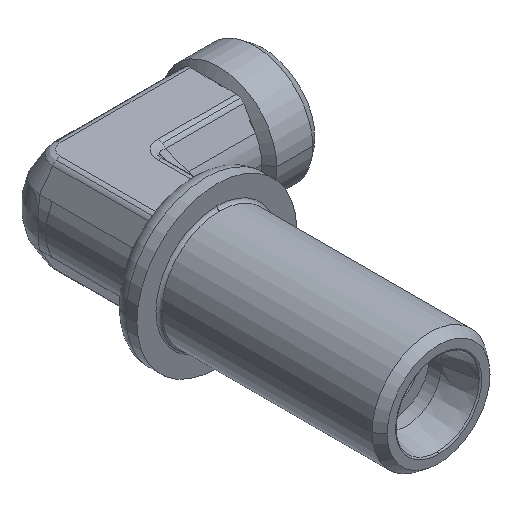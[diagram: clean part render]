
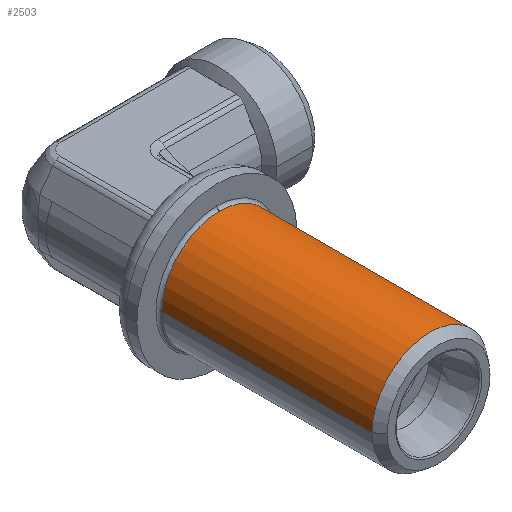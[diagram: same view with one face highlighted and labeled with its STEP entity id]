
A CAD part, isometric view. The second image highlights one B-rep face of the part: STEP entity #2503.
In plain terms, the highlighted cylindrical face has radius 9.925 mm (diameter 19.85 mm), a partial arc.
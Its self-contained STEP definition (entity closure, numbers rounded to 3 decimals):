
#1095=CARTESIAN_POINT('',(17.,0.,-9.925));
#1096=VERTEX_POINT('',#1095);
#1104=CARTESIAN_POINT('',(17.,-9.925,0.));
#1105=VERTEX_POINT('',#1104);
#1106=CARTESIAN_POINT('',(17.,0.,0.));
#1107=DIRECTION('',(-1.0,0.0,0.0));
#1108=DIRECTION('',(0.0,0.0,1.0));
#1109=AXIS2_PLACEMENT_3D('',#1106,#1107,#1108);
#1110=CIRCLE('',#1109,9.925);
#1111=EDGE_CURVE('',#1096,#1105,#1110,.T.);
#1137=CARTESIAN_POINT('',(53.007,0.,9.925));
#1138=VERTEX_POINT('',#1137);
#1139=CARTESIAN_POINT('',(17.,0.,9.925));
#1140=VERTEX_POINT('',#1139);
#1141=CARTESIAN_POINT('',(53.007,0.,9.925));
#1142=DIRECTION('',(-1.0,0.0,0.0));
#1143=VECTOR('',#1142,36.007);
#1144=LINE('',#1141,#1143);
#1145=EDGE_CURVE('',#1138,#1140,#1144,.T.);
#1147=CARTESIAN_POINT('',(53.007,0.,-9.925));
#1148=VERTEX_POINT('',#1147);
#1156=CARTESIAN_POINT('',(17.,0.,-9.925));
#1157=DIRECTION('',(1.0,0.0,0.0));
#1158=VECTOR('',#1157,36.007);
#1159=LINE('',#1156,#1158);
#1160=EDGE_CURVE('',#1096,#1148,#1159,.T.);
#2473=CARTESIAN_POINT('',(53.007,0.,0.));
#2474=DIRECTION('',(-1.0,0.0,0.0));
#2475=DIRECTION('',(0.0,0.0,1.0));
#2476=AXIS2_PLACEMENT_3D('',#2473,#2474,#2475);
#2477=CIRCLE('',#2476,9.925);
#2478=EDGE_CURVE('',#1148,#1138,#2477,.T.);
#2485=CARTESIAN_POINT('',(35.004,0.,0.));
#2486=DIRECTION('',(-1.0,0.,0.));
#2487=DIRECTION('',(0.0,0.0,1.0));
#2488=AXIS2_PLACEMENT_3D('',#2485,#2486,#2487);
#2489=CYLINDRICAL_SURFACE('',#2488,9.925);
#2490=ORIENTED_EDGE('',*,*,#1145,.T.);
#2491=CARTESIAN_POINT('',(17.,0.,0.));
#2492=DIRECTION('',(-1.0,0.0,0.0));
#2493=DIRECTION('',(0.0,0.0,1.0));
#2494=AXIS2_PLACEMENT_3D('',#2491,#2492,#2493);
#2495=CIRCLE('',#2494,9.925);
#2496=EDGE_CURVE('',#1105,#1140,#2495,.T.);
#2497=ORIENTED_EDGE('',*,*,#2496,.F.);
#2498=ORIENTED_EDGE('',*,*,#1111,.F.);
#2499=ORIENTED_EDGE('',*,*,#1160,.T.);
#2500=ORIENTED_EDGE('',*,*,#2478,.T.);
#2501=EDGE_LOOP('',(#2490,#2497,#2498,#2499,#2500));
#2502=FACE_OUTER_BOUND('',#2501,.T.);
#2503=ADVANCED_FACE('',(#2502),#2489,.T.);
